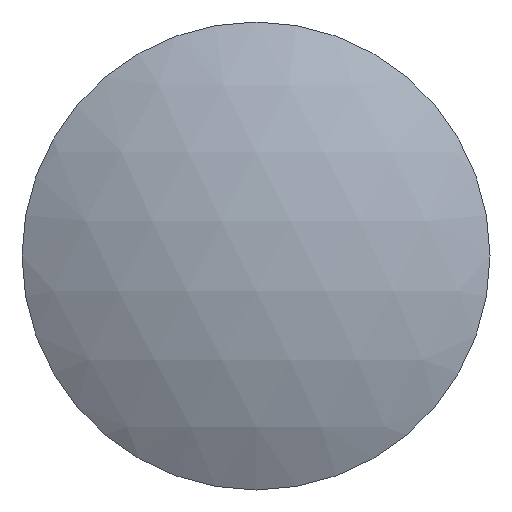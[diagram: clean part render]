
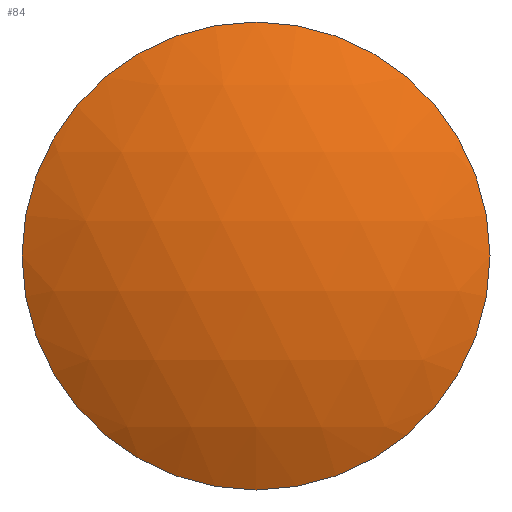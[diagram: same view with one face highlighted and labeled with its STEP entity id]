
A CAD part, front view. The second image highlights one B-rep face of the part: STEP entity #84.
In plain terms, the highlighted spherical face has radius 20.76 mm.
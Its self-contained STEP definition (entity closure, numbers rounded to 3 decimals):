
#68=CARTESIAN_POINT('',(0.0,16.16,0.0));
#69=DIRECTION('',(0.0,0.0,1.0));
#70=DIRECTION('',(1.0,0.0,0.0));
#71=AXIS2_PLACEMENT_3D('',#68,#69,#70);
#72=SPHERICAL_SURFACE('',#71,20.76);
#73=CARTESIAN_POINT('',(-10.,-2.033,0.0));
#74=VERTEX_POINT('',#73);
#75=CARTESIAN_POINT('',(0.0,-2.033,0.0));
#76=DIRECTION('',(0.0,1.0,0.0));
#77=DIRECTION('',(-1.0,0.0,0.0));
#78=AXIS2_PLACEMENT_3D('',#75,#76,#77);
#79=CIRCLE('',#78,10.);
#80=EDGE_CURVE('',#74,#74,#79,.T.);
#81=ORIENTED_EDGE('',*,*,#80,.F.);
#82=EDGE_LOOP('',(#81));
#83=FACE_OUTER_BOUND('',#82,.T.);
#84=ADVANCED_FACE('',(#83),#72,.T.);
